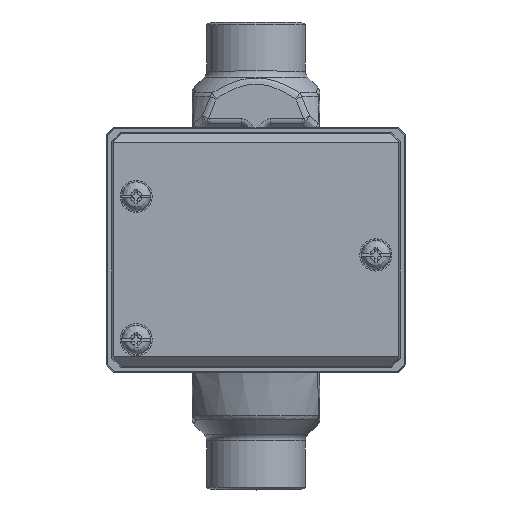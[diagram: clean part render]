
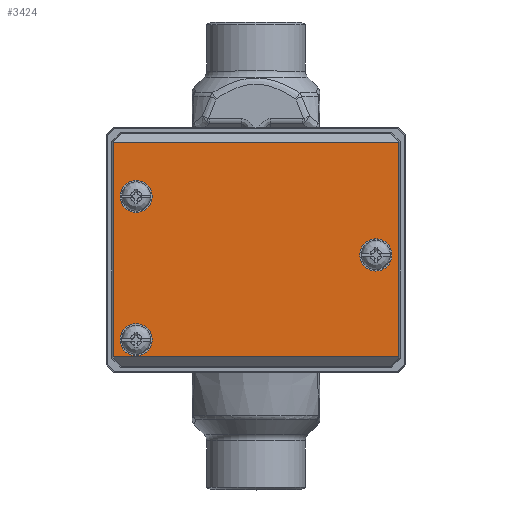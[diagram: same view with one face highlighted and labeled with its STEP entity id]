
A CAD part, top view. The second image highlights one B-rep face of the part: STEP entity #3424.
In plain terms, the highlighted planar face has unit normal (0, 0, 1).
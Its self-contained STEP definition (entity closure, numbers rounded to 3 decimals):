
#3424=ADVANCED_FACE('',(#8492,#8493,#8494,#8495),#4779,.T.);
#4779=PLANE('',#23787);
#5434=LINE('',#31799,#6893);
#5440=LINE('',#31818,#6899);
#5441=LINE('',#31820,#6900);
#5442=LINE('',#31822,#6901);
#5443=LINE('',#31824,#6902);
#5444=LINE('',#31826,#6903);
#5445=LINE('',#31828,#6904);
#5446=LINE('',#31830,#6905);
#6893=VECTOR('',#25932,1.);
#6899=VECTOR('',#25948,1.);
#6900=VECTOR('',#25949,1.);
#6901=VECTOR('',#25950,1.);
#6902=VECTOR('',#25951,1.);
#6903=VECTOR('',#25952,1.);
#6904=VECTOR('',#25953,1.);
#6905=VECTOR('',#25954,1.);
#8492=FACE_BOUND('',#8717,.T.);
#8493=FACE_BOUND('',#8718,.T.);
#8494=FACE_BOUND('',#8719,.T.);
#8495=FACE_BOUND('',#8720,.T.);
#8717=EDGE_LOOP('',(#10248));
#8718=EDGE_LOOP('',(#10249));
#8719=EDGE_LOOP('',(#10250));
#8720=EDGE_LOOP('',(#10251,#10252,#10253,#10254,#10255,#10256,#10257,#10258));
#10248=ORIENTED_EDGE('',*,*,#19457,.T.);
#10249=ORIENTED_EDGE('',*,*,#19458,.T.);
#10250=ORIENTED_EDGE('',*,*,#19459,.T.);
#10251=ORIENTED_EDGE('',*,*,#19451,.F.);
#10252=ORIENTED_EDGE('',*,*,#19460,.T.);
#10253=ORIENTED_EDGE('',*,*,#19461,.T.);
#10254=ORIENTED_EDGE('',*,*,#19462,.T.);
#10255=ORIENTED_EDGE('',*,*,#19463,.F.);
#10256=ORIENTED_EDGE('',*,*,#19464,.T.);
#10257=ORIENTED_EDGE('',*,*,#19465,.T.);
#10258=ORIENTED_EDGE('',*,*,#19466,.T.);
#17204=VERTEX_POINT('',#31798);
#17205=VERTEX_POINT('',#31800);
#17210=VERTEX_POINT('',#31813);
#17211=VERTEX_POINT('',#31815);
#17212=VERTEX_POINT('',#31817);
#17213=VERTEX_POINT('',#31819);
#17214=VERTEX_POINT('',#31821);
#17215=VERTEX_POINT('',#31823);
#17216=VERTEX_POINT('',#31825);
#17217=VERTEX_POINT('',#31827);
#17218=VERTEX_POINT('',#31829);
#19451=EDGE_CURVE('',#17204,#17205,#5434,.T.);
#19457=EDGE_CURVE('',#17210,#17210,#22889,.T.);
#19458=EDGE_CURVE('',#17211,#17211,#22890,.T.);
#19459=EDGE_CURVE('',#17212,#17212,#22891,.T.);
#19460=EDGE_CURVE('',#17204,#17213,#5440,.T.);
#19461=EDGE_CURVE('',#17213,#17214,#5441,.T.);
#19462=EDGE_CURVE('',#17214,#17215,#5442,.T.);
#19463=EDGE_CURVE('',#17216,#17215,#5443,.T.);
#19464=EDGE_CURVE('',#17216,#17217,#5444,.T.);
#19465=EDGE_CURVE('',#17217,#17218,#5445,.T.);
#19466=EDGE_CURVE('',#17218,#17205,#5446,.T.);
#22889=CIRCLE('',#23784,5.5);
#22890=CIRCLE('',#23785,5.5);
#22891=CIRCLE('',#23786,5.5);
#23784=AXIS2_PLACEMENT_3D('',#31812,#25942,#25943);
#23785=AXIS2_PLACEMENT_3D('',#31814,#25944,#25945);
#23786=AXIS2_PLACEMENT_3D('',#31816,#25946,#25947);
#23787=AXIS2_PLACEMENT_3D('',#31831,#25955,#25956);
#25932=DIRECTION('',(0.,1.,0.));
#25942=DIRECTION('',(0.,0.,-1.));
#25943=DIRECTION('',(1.,0.,0.));
#25944=DIRECTION('',(0.,0.,-1.));
#25945=DIRECTION('',(1.,0.,0.));
#25946=DIRECTION('',(0.,0.,-1.));
#25947=DIRECTION('',(1.,0.,0.));
#25948=DIRECTION('',(0.707,-0.707,0.));
#25949=DIRECTION('',(1.,0.,0.));
#25950=DIRECTION('',(0.707,0.707,0.));
#25951=DIRECTION('',(0.,-1.,0.));
#25952=DIRECTION('',(-0.707,0.707,0.));
#25953=DIRECTION('',(-1.,0.,0.));
#25954=DIRECTION('',(-0.707,-0.707,0.));
#25955=DIRECTION('',(0.,0.,1.));
#25956=DIRECTION('',(-1.,0.,0.));
#31798=CARTESIAN_POINT('',(-48.896,-34.894,210.));
#31799=CARTESIAN_POINT('',(-48.896,41.85,210.));
#31800=CARTESIAN_POINT('',(-48.896,38.394,210.));
#31812=CARTESIAN_POINT('',(41.,0.,210.));
#31813=CARTESIAN_POINT('',(46.5,0.,210.));
#31814=CARTESIAN_POINT('',(-41.,20.,210.));
#31815=CARTESIAN_POINT('',(-35.5,20.,210.));
#31816=CARTESIAN_POINT('',(-41.,-29.,210.));
#31817=CARTESIAN_POINT('',(-35.5,-29.,210.));
#31818=CARTESIAN_POINT('',(-42.77,-41.02,210.));
#31819=CARTESIAN_POINT('',(-48.894,-34.896,210.));
#31820=CARTESIAN_POINT('',(0.,-34.896,210.));
#31821=CARTESIAN_POINT('',(48.894,-34.896,210.));
#31822=CARTESIAN_POINT('',(42.77,-41.02,210.));
#31823=CARTESIAN_POINT('',(48.896,-34.894,210.));
#31824=CARTESIAN_POINT('',(48.896,41.85,210.));
#31825=CARTESIAN_POINT('',(48.896,38.394,210.));
#31826=CARTESIAN_POINT('',(42.77,44.52,210.));
#31827=CARTESIAN_POINT('',(48.894,38.396,210.));
#31828=CARTESIAN_POINT('',(0.,38.396,210.));
#31829=CARTESIAN_POINT('',(-48.894,38.396,210.));
#31830=CARTESIAN_POINT('',(-42.77,44.52,210.));
#31831=CARTESIAN_POINT('',(0.,1.75,210.));
